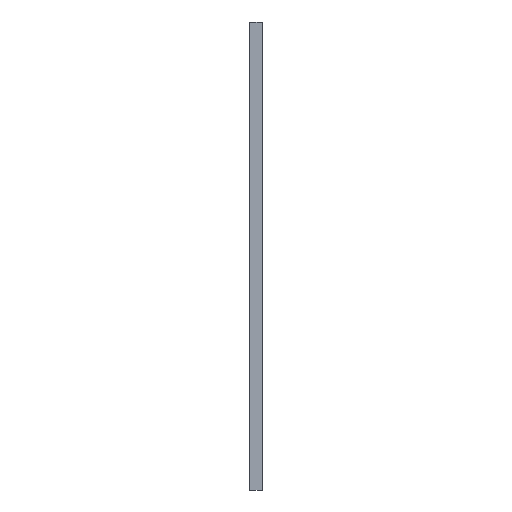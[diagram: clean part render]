
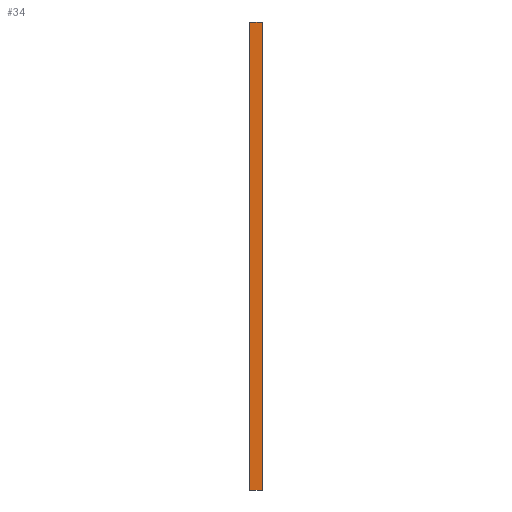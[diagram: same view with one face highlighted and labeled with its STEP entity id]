
A CAD part, left-side view. The second image highlights one B-rep face of the part: STEP entity #34.
In plain terms, the highlighted planar face has unit normal (-1, 0, 0).
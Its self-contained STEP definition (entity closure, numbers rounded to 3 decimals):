
#34=ADVANCED_FACE('',(#68),#1276,.T.);
#68=FACE_OUTER_BOUND('',#102,.T.);
#102=EDGE_LOOP('',(#154,#155,#156,#157));
#154=ORIENTED_EDGE('',*,*,#892,.T.);
#155=ORIENTED_EDGE('',*,*,#893,.T.);
#156=ORIENTED_EDGE('',*,*,#894,.T.);
#157=ORIENTED_EDGE('',*,*,#890,.F.);
#412=PCURVE('',#1275,#604);
#415=PCURVE('',#1276,#607);
#416=PCURVE('',#1276,#608);
#417=PCURVE('',#1276,#609);
#418=PCURVE('',#1276,#610);
#422=PCURVE('',#1277,#614);
#522=PCURVE('',#1290,#714);
#555=PCURVE('',#1291,#747);
#604=DEFINITIONAL_REPRESENTATION('',(#1000),#2263);
#607=DEFINITIONAL_REPRESENTATION('',(#1005),#2263);
#608=DEFINITIONAL_REPRESENTATION('',(#1007),#2263);
#609=DEFINITIONAL_REPRESENTATION('',(#1009),#2263);
#610=DEFINITIONAL_REPRESENTATION('',(#1010),#2263);
#614=DEFINITIONAL_REPRESENTATION('',(#1017),#2263);
#714=DEFINITIONAL_REPRESENTATION('',(#1153),#2263);
#747=DEFINITIONAL_REPRESENTATION('',(#1172),#2263);
#794=SURFACE_CURVE('',#999,(#412,#418),.PCURVE_S1.);
#796=SURFACE_CURVE('',#1004,(#415,#522),.PCURVE_S1.);
#797=SURFACE_CURVE('',#1006,(#416,#422),.PCURVE_S1.);
#798=SURFACE_CURVE('',#1008,(#417,#555),.PCURVE_S1.);
#890=EDGE_CURVE('',#1202,#1203,#794,.T.);
#892=EDGE_CURVE('',#1202,#1204,#796,.T.);
#893=EDGE_CURVE('',#1204,#1205,#797,.T.);
#894=EDGE_CURVE('',#1205,#1203,#798,.T.);
#999=B_SPLINE_CURVE_WITH_KNOTS('',1,(#1630,#1631),.UNSPECIFIED.,.F.,.F.,
(2,2),(0.,3.),.UNSPECIFIED.);
#1000=B_SPLINE_CURVE_WITH_KNOTS('',1,(#1632,#1633),.UNSPECIFIED.,.F.,.F.,
(2,2),(0.,3.),.UNSPECIFIED.);
#1004=B_SPLINE_CURVE_WITH_KNOTS('',1,(#1640,#1641),.UNSPECIFIED.,.F.,.F.,
(2,2),(-285.,-175.),.UNSPECIFIED.);
#1005=B_SPLINE_CURVE_WITH_KNOTS('',1,(#1642,#1643),.UNSPECIFIED.,.F.,.F.,
(2,2),(-285.,-175.),.UNSPECIFIED.);
#1006=B_SPLINE_CURVE_WITH_KNOTS('',1,(#1644,#1645),.UNSPECIFIED.,.F.,.F.,
(2,2),(0.,3.),.UNSPECIFIED.);
#1007=B_SPLINE_CURVE_WITH_KNOTS('',1,(#1646,#1647),.UNSPECIFIED.,.F.,.F.,
(2,2),(0.,3.),.UNSPECIFIED.);
#1008=B_SPLINE_CURVE_WITH_KNOTS('',1,(#1648,#1649),.UNSPECIFIED.,.F.,.F.,
(2,2),(175.,285.),.UNSPECIFIED.);
#1009=B_SPLINE_CURVE_WITH_KNOTS('',1,(#1650,#1651),.UNSPECIFIED.,.F.,.F.,
(2,2),(175.,285.),.UNSPECIFIED.);
#1010=B_SPLINE_CURVE_WITH_KNOTS('',1,(#1652,#1653),.UNSPECIFIED.,.F.,.F.,
(2,2),(0.,3.),.UNSPECIFIED.);
#1017=B_SPLINE_CURVE_WITH_KNOTS('',1,(#1666,#1667),.UNSPECIFIED.,.F.,.F.,
(2,2),(0.,3.),.UNSPECIFIED.);
#1153=B_SPLINE_CURVE_WITH_KNOTS('',1,(#2052,#2053),.UNSPECIFIED.,.F.,.F.,
(2,2),(-285.,-175.),.UNSPECIFIED.);
#1172=B_SPLINE_CURVE_WITH_KNOTS('',1,(#2154,#2155),.UNSPECIFIED.,.F.,.F.,
(2,2),(175.,285.),.UNSPECIFIED.);
#1202=VERTEX_POINT('',#1526);
#1203=VERTEX_POINT('',#1527);
#1204=VERTEX_POINT('',#1528);
#1205=VERTEX_POINT('',#1529);
#1275=PLANE('',#1315);
#1276=PLANE('',#1316);
#1277=PLANE('',#1317);
#1290=PLANE('',#1330);
#1291=PLANE('',#1331);
#1315=AXIS2_PLACEMENT_3D('',#1361,#1338,$);
#1316=AXIS2_PLACEMENT_3D('',#1362,#1339,$);
#1317=AXIS2_PLACEMENT_3D('',#1363,#1340,$);
#1330=AXIS2_PLACEMENT_3D('',#1480,#1353,$);
#1331=AXIS2_PLACEMENT_3D('',#1481,#1354,$);
#1338=DIRECTION('',(0.,0.,-1.));
#1339=DIRECTION('',(-1.,0.,0.));
#1340=DIRECTION('',(0.,0.,1.));
#1353=DIRECTION('',(0.,-1.,0.));
#1354=DIRECTION('',(0.,1.,0.));
#1361=CARTESIAN_POINT('',(810.,342.,34.));
#1362=CARTESIAN_POINT('',(645.,342.,34.));
#1363=CARTESIAN_POINT('',(645.,342.,144.));
#1480=CARTESIAN_POINT('',(815.,342.,34.));
#1481=CARTESIAN_POINT('',(815.,345.,34.));
#1526=CARTESIAN_POINT('',(645.,342.,34.));
#1527=CARTESIAN_POINT('',(645.,345.,34.));
#1528=CARTESIAN_POINT('',(645.,342.,144.));
#1529=CARTESIAN_POINT('',(645.,345.,144.));
#1630=CARTESIAN_POINT('',(645.,342.,34.));
#1631=CARTESIAN_POINT('',(645.,345.,34.));
#1632=CARTESIAN_POINT('',(-285.,0.));
#1633=CARTESIAN_POINT('',(-285.,3.));
#1640=CARTESIAN_POINT('',(645.,342.,34.));
#1641=CARTESIAN_POINT('',(645.,342.,144.));
#1642=CARTESIAN_POINT('',(-285.,0.));
#1643=CARTESIAN_POINT('',(-175.,0.));
#1644=CARTESIAN_POINT('',(645.,342.,144.));
#1645=CARTESIAN_POINT('',(645.,345.,144.));
#1646=CARTESIAN_POINT('',(-175.,0.));
#1647=CARTESIAN_POINT('',(-175.,3.));
#1648=CARTESIAN_POINT('',(645.,345.,144.));
#1649=CARTESIAN_POINT('',(645.,345.,34.));
#1650=CARTESIAN_POINT('',(-175.,3.));
#1651=CARTESIAN_POINT('',(-285.,3.));
#1652=CARTESIAN_POINT('',(-285.,0.));
#1653=CARTESIAN_POINT('',(-285.,3.));
#1666=CARTESIAN_POINT('',(-175.,0.));
#1667=CARTESIAN_POINT('',(-175.,3.));
#2052=CARTESIAN_POINT('',(-105.,170.));
#2053=CARTESIAN_POINT('',(5.,170.));
#2154=CARTESIAN_POINT('',(170.,5.));
#2155=CARTESIAN_POINT('',(170.,-105.));
#2263=(
GEOMETRIC_REPRESENTATION_CONTEXT(2)
PARAMETRIC_REPRESENTATION_CONTEXT()
REPRESENTATION_CONTEXT('pspace','')
);
